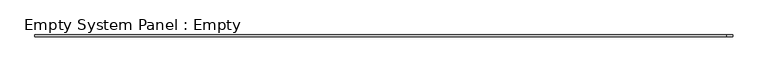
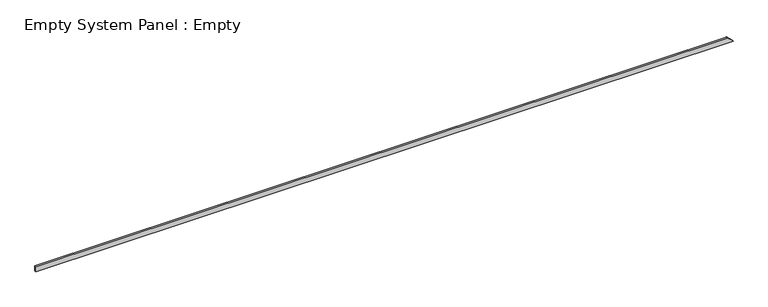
"""IFC4 building model written with IfcOpenShell, lengths in millimetres: plate geometry, Empty System Panel : Empty."""

from ifc_helpers import new_model, si_unit, frame, origin, place, context, project, spatial, polyline, outline, extrude, source, transform, mapped, element, save


def empty_system_panel_empty_2183487f(model_context):
    return source(origin(), model_context, "Body", "SweptSolid", [
        extrude(outline(polyline([(0.0, -19740.3910702), (0.0, 19740.3910702), (330.0, 19414.0420737), (310.0, 19414.0420737), (310.0, -19740.3910702), (0.0, -19740.3910702)])), frame((0.0, -50.0, 0.0), z_axis=(0.0, 1.0, 0.0), x_axis=(0.0, 0.0, 1.0)), (0.0, 0.0, 1.0), 100.0),
    ])


if __name__ == "__main__":
    model = new_model("IFC4")
    model_context = context("Model", 3, world=origin())
    ifc_project = project(units=[si_unit("LENGTHUNIT", "METRE", prefix="MILLI")], contexts=[model_context])
    site = spatial("IfcSite", under=ifc_project)
    building = spatial("IfcBuilding", under=site)
    placement = place(None, origin())
    empty_system_panel_empty_shape = empty_system_panel_empty_2183487f(model_context)
    element("IfcPlate", 1, ObjectType="Empty System Panel : Empty", at=placement, inside=building, context=model_context, shape_type="MappedRepresentation", body=[
        mapped(empty_system_panel_empty_shape, transform((0.0, 0.0, 0.0), x_axis=(1.0, 0.0, 0.0), y_axis=(0.0, 1.0, 0.0), z_axis=(0.0, 0.0, 1.0))),
    ])
    save(model, "model.ifc")
